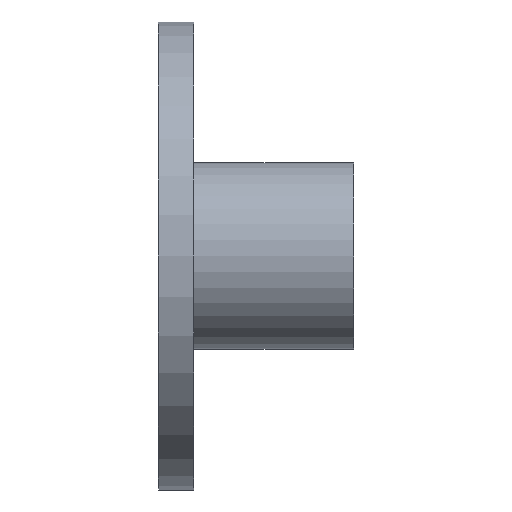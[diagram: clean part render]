
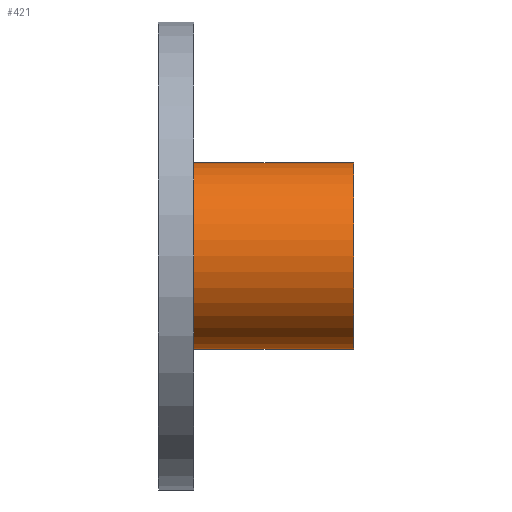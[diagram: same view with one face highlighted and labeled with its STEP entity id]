
A CAD part, front view. The second image highlights one B-rep face of the part: STEP entity #421.
In plain terms, the highlighted cylindrical face has radius 12.167 mm (diameter 24.333 mm), a partial arc.
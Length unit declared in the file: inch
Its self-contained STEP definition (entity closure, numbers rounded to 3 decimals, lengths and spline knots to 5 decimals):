
#3 = CARTESIAN_POINT ( 'NONE',  ( 0.30681, 0., -0.479 ) ) ;
#11 = DIRECTION ( 'NONE',  ( 0., 0., 1. ) ) ;
#50 = VERTEX_POINT ( 'NONE', #352 ) ;
#53 = VERTEX_POINT ( 'NONE', #96 ) ;
#62 = VERTEX_POINT ( 'NONE', #337 ) ;
#63 = DIRECTION ( 'NONE',  ( 1., 0., 0. ) ) ;
#64 = DIRECTION ( 'NONE',  ( 0., 0., -1. ) ) ;
#74 = CARTESIAN_POINT ( 'NONE',  ( 0.30681, 0., 0. ) ) ;
#93 = DIRECTION ( 'NONE',  ( -1., 0., 0. ) ) ;
#96 = CARTESIAN_POINT ( 'NONE',  ( -0.51319, 0., -0.479 ) ) ;
#122 = CARTESIAN_POINT ( 'NONE',  ( 0.30681, 0., 0.479 ) ) ;
#170 = DIRECTION ( 'NONE',  ( -1., 0., 0. ) ) ;
#175 = DIRECTION ( 'NONE',  ( 1., 0., 0. ) ) ;
#176 = CARTESIAN_POINT ( 'NONE',  ( -0.51319, 0., 0. ) ) ;
#198 = DIRECTION ( 'NONE',  ( 0., 0., -1. ) ) ;
#238 = CARTESIAN_POINT ( 'NONE',  ( 0.30681, 0., 0. ) ) ;
#253 = DIRECTION ( 'NONE',  ( -1., 0., 0. ) ) ;
#284 = VERTEX_POINT ( 'NONE', #316 ) ;
#316 = CARTESIAN_POINT ( 'NONE',  ( 0.30681, 0., -0.479 ) ) ;
#337 = CARTESIAN_POINT ( 'NONE',  ( 0.30681, 0., 0.479 ) ) ;
#352 = CARTESIAN_POINT ( 'NONE',  ( -0.51319, 0., 0.479 ) ) ;
#421 = ADVANCED_FACE ( 'NONE', ( #712 ), #685, .T. ) ;
#441 = AXIS2_PLACEMENT_3D ( 'NONE', #74, #93, #11 ) ;
#462 = AXIS2_PLACEMENT_3D ( 'NONE', #176, #175, #198 ) ;
#496 = AXIS2_PLACEMENT_3D ( 'NONE', #238, #63, #64 ) ;
#528 = EDGE_CURVE ( 'NONE', #284, #53, #605, .T. ) ;
#545 = EDGE_CURVE ( 'NONE', #50, #53, #662, .T. ) ;
#549 = EDGE_CURVE ( 'NONE', #62, #50, #794, .T. ) ;
#567 = EDGE_CURVE ( 'NONE', #62, #284, #760, .T. ) ;
#605 = LINE ( 'NONE', #3, #675 ) ;
#662 = CIRCLE ( 'NONE', #462, 0.479 ) ;
#675 = VECTOR ( 'NONE', #170, 39.37008 ) ;
#685 = CYLINDRICAL_SURFACE ( 'NONE', #441, 0.479 ) ;
#712 = FACE_OUTER_BOUND ( 'NONE', #891, .T. ) ;
#734 = ORIENTED_EDGE ( 'NONE', *, *, #528, .F. ) ;
#750 = ORIENTED_EDGE ( 'NONE', *, *, #549, .T. ) ;
#751 = ORIENTED_EDGE ( 'NONE', *, *, #567, .F. ) ;
#760 = CIRCLE ( 'NONE', #496, 0.479 ) ;
#783 = ORIENTED_EDGE ( 'NONE', *, *, #545, .T. ) ;
#785 = VECTOR ( 'NONE', #253, 39.37008 ) ;
#794 = LINE ( 'NONE', #122, #785 ) ;
#891 = EDGE_LOOP ( 'NONE', ( #734, #751, #750, #783 ) ) ;
